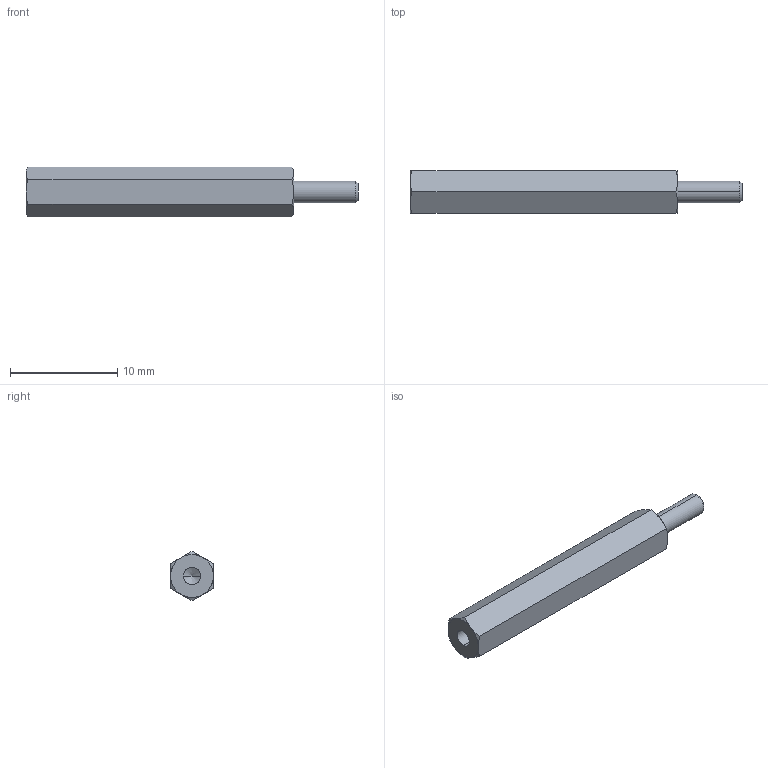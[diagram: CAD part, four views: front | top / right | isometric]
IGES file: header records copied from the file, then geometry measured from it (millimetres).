
Start section: SolidWorks IGES file using analytic representation for surfaces
Global section: file name: C:\Users\render1\Desktop\P0185_IGES\P0185.02-25.igs; native system: SolidWorks 2009; preprocessor: SolidWorks 2009; author: render1; date: 130627.111351; units: millimetre
Bounding box: 31 x 4 x 4.62 mm (x, y, z)
Surface area: 440.2 mm2 (no closed solid volume)
Topology: 0 solids, 0 shells, 29 faces, 292 edges, 290 vertices
Faces by surface type: revolution 20, bspline 9
